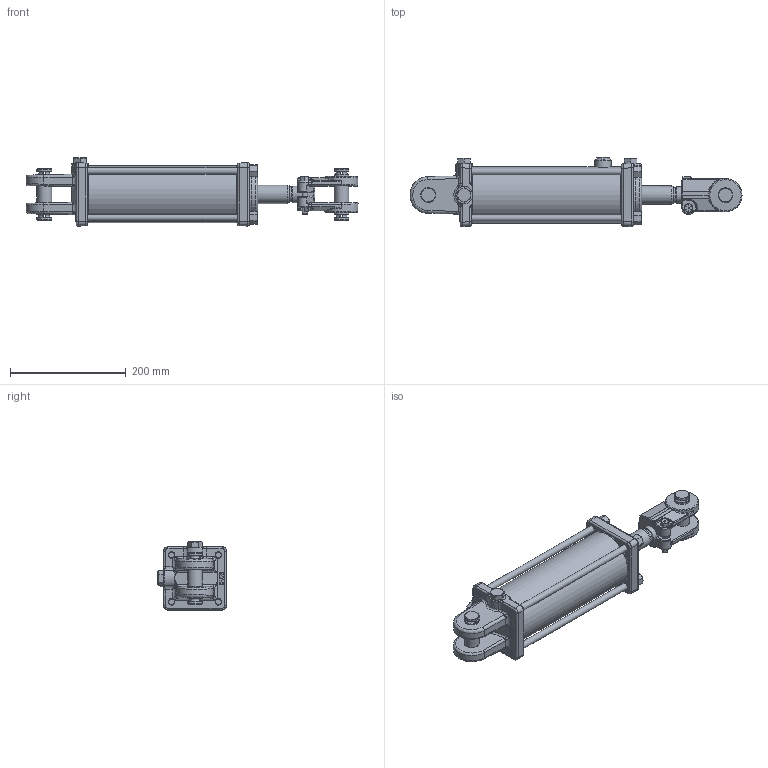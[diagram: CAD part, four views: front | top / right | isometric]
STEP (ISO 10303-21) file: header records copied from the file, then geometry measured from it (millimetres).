
FILE_DESCRIPTION((''),'2;1');
FILE_NAME('\\SRVR-ENG\EngSales\PMS-AM-2562.stp','2012-10-01T13:40:45',('KneiflD'),(''),'Autodesk Inventor 2012','Autodesk Inventor 2012','');
FILE_SCHEMA(('AUTOMOTIVE_DESIGN { 1 0 10303 214 1 1 1 1 }'));
Length unit declared in the file: inch
Products named in the file (21): PMS-AM-2562; 061700397; 051700411; 200300181V; 1417005SF; 081700269V; 081700268V; 210600293V; 010600382; 100000423V; 100000422V; 170002104V; 220000203; 071700345V; 220000209V; 200300104V; 200300040V; 190400001V; 170201123; 800005001_23; 220000105V
Assembly tree (26 placements, depth 3):
  PMS-AM-2562
    061700397
      051700411
      200300181V
    1417005SF
    081700269V
      081700268V
      210600293V
    010600382
    100000423V
      100000422V
      170002104V
      220000203
    071700345V
    220000209V
    200300104V
    200300040V  x3
    190400001V  x2
    170201123  x4
      800005001_23
      220000105V
Bounding box: 574.58 x 120.03 x 118 mm (x, y, z)
Volume: 1967663.2 mm3; surface area: 464220.2 mm2
Topology: 25 solids, 25 shells, 936 faces, 2147 edges, 1275 vertices
Faces by surface type: plane 288, cylinder 230, bspline 195, cone 171, torus 36, sphere 16
Full cylindrical faces by diameter (mm): 1.575 x1, 2.769 x1, 5.159 x4, 7.798 x1, 7.938 x3, 9.493 x1, 9.525 x1, 10.319 x2, 10.592 x8, 11.43 x4, 13.097 x4, 15.875 x2, 16.764 x3, 17.066 x1, 17.501 x4, 19.05 x4, 20.676 x1, 22.174 x1, 22.301 x1, 22.352 x1, 25.4 x6, 25.781 x4, 25.806 x1, 28.372 x1, 28.575 x1, 31.725 x2, 31.75 x2, 32.004 x1, 34.188 x1, 34.798 x1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
Entity records: 27830 total; most frequent: CARTESIAN_POINT 11268, ORIENTED_EDGE 3276, DIRECTION 3080, EDGE_CURVE 1638, AXIS2_PLACEMENT_3D 1279, VERTEX_POINT 1048, EDGE_LOOP 998, FACE_OUTER_BOUND 781
